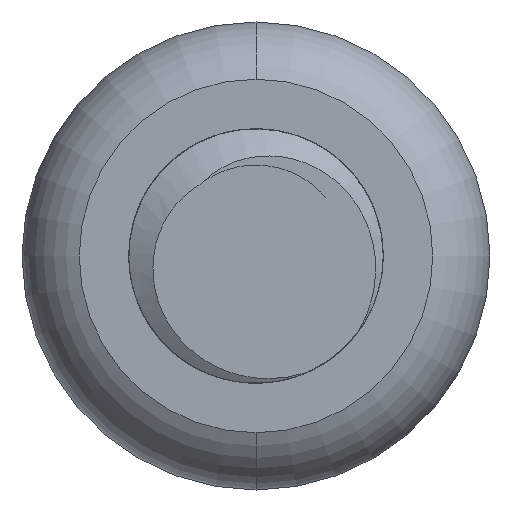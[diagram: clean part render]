
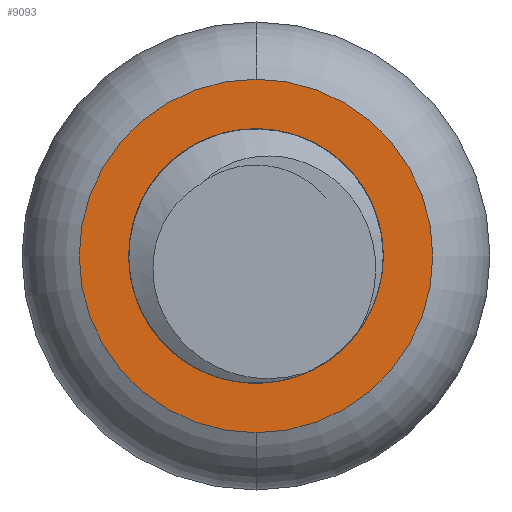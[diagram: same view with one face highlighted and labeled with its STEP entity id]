
A CAD part, front view. The second image highlights one B-rep face of the part: STEP entity #9093.
In plain terms, the highlighted planar face has unit normal (0, -1, 0).
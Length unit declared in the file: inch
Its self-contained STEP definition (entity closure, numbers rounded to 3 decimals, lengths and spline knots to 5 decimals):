
#26 = FACE_OUTER_BOUND ( 'NONE', #9068, .T. ) ;
#75 = CARTESIAN_POINT ( 'NONE',  ( 0., 2.04724, 0.10673 ) ) ;
#226 = EDGE_CURVE ( 'NONE', #11225, #3726, #9404, .T. ) ;
#376 = AXIS2_PLACEMENT_3D ( 'NONE', #923, #1165, #9937 ) ;
#879 = AXIS2_PLACEMENT_3D ( 'NONE', #8453, #8512, #4831 ) ;
#923 = CARTESIAN_POINT ( 'NONE',  ( 0., 2.04724, 0. ) ) ;
#1165 = DIRECTION ( 'NONE',  ( 0., 1., 0. ) ) ;
#1538 = CARTESIAN_POINT ( 'NONE',  ( 0., 2.04724, 0. ) ) ;
#2160 = CIRCLE ( 'NONE', #9347, 0.10673 ) ;
#2178 = EDGE_LOOP ( 'NONE', ( #8970, #2295 ) ) ;
#2295 = ORIENTED_EDGE ( 'NONE', *, *, #3063, .T. ) ;
#2915 = EDGE_CURVE ( 'NONE', #6989, #10339, #11697, .T. ) ;
#2979 = CARTESIAN_POINT ( 'NONE',  ( 0.07677, 2.04724, 0. ) ) ;
#3006 = CIRCLE ( 'NONE', #8672, 0.07677 ) ;
#3037 = CARTESIAN_POINT ( 'NONE',  ( 0., 2.04724, 0. ) ) ;
#3063 = EDGE_CURVE ( 'NONE', #3726, #11225, #3006, .T. ) ;
#3384 = DIRECTION ( 'NONE',  ( 1., 0., 0. ) ) ;
#3620 = EDGE_CURVE ( 'NONE', #6989, #10339, #2160, .T. ) ;
#3723 = CARTESIAN_POINT ( 'NONE',  ( 0., 2.04724, -0.10673 ) ) ;
#3726 = VERTEX_POINT ( 'NONE', #2979 ) ;
#3842 = FACE_BOUND ( 'NONE', #2178, .T. ) ;
#4073 = ORIENTED_EDGE ( 'NONE', *, *, #3620, .F. ) ;
#4831 = DIRECTION ( 'NONE',  ( -1., 0., 0. ) ) ;
#4856 = DIRECTION ( 'NONE',  ( 0., 1., 0. ) ) ;
#4913 = DIRECTION ( 'NONE',  ( 0., 0., 1. ) ) ;
#5902 = ORIENTED_EDGE ( 'NONE', *, *, #2915, .T. ) ;
#5985 = DIRECTION ( 'NONE',  ( 0., 1., 0. ) ) ;
#6989 = VERTEX_POINT ( 'NONE', #75 ) ;
#7653 = DIRECTION ( 'NONE',  ( 0., -1., 0. ) ) ;
#8103 = AXIS2_PLACEMENT_3D ( 'NONE', #1538, #7653, #10442 ) ;
#8453 = CARTESIAN_POINT ( 'NONE',  ( 0., 2.04724, 0. ) ) ;
#8512 = DIRECTION ( 'NONE',  ( 0., 1., 0. ) ) ;
#8672 = AXIS2_PLACEMENT_3D ( 'NONE', #11497, #5985, #3384 ) ;
#8970 = ORIENTED_EDGE ( 'NONE', *, *, #226, .T. ) ;
#9068 = EDGE_LOOP ( 'NONE', ( #4073, #5902 ) ) ;
#9093 = ADVANCED_FACE ( 'NONE', ( #3842, #26 ), #10181, .F. ) ;
#9347 = AXIS2_PLACEMENT_3D ( 'NONE', #3037, #4856, #4913 ) ;
#9404 = CIRCLE ( 'NONE', #879, 0.07677 ) ;
#9937 = DIRECTION ( 'NONE',  ( 1., 0., 0. ) ) ;
#10181 = PLANE ( 'NONE',  #376 ) ;
#10339 = VERTEX_POINT ( 'NONE', #3723 ) ;
#10442 = DIRECTION ( 'NONE',  ( 0., 0., 1. ) ) ;
#10644 = CARTESIAN_POINT ( 'NONE',  ( -0.07677, 2.04724, 0. ) ) ;
#11225 = VERTEX_POINT ( 'NONE', #10644 ) ;
#11497 = CARTESIAN_POINT ( 'NONE',  ( 0., 2.04724, 0. ) ) ;
#11697 = CIRCLE ( 'NONE', #8103, 0.10673 ) ;
